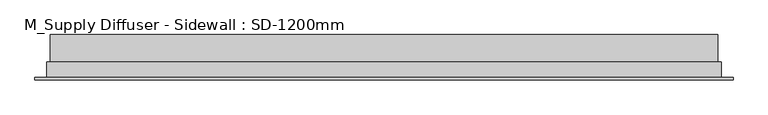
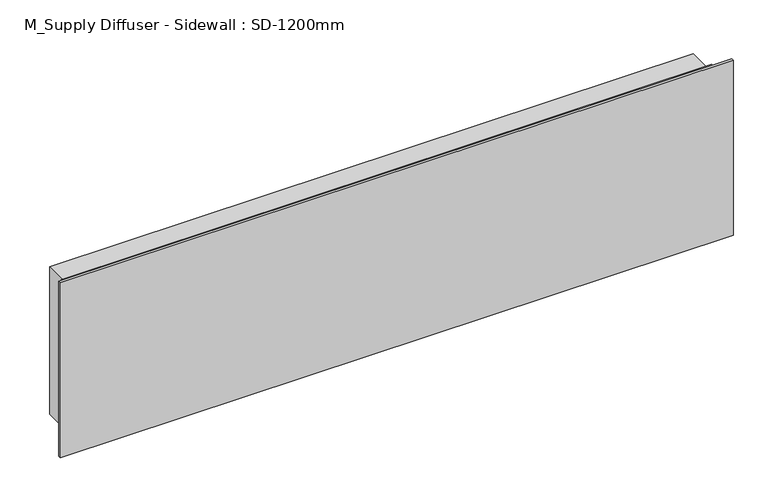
"""IFC4 building model written with IfcOpenShell, lengths in millimetres: air terminal geometry, M_Supply Diffuser - Sidewall : SD-1200mm."""

from ifc_helpers import new_model, si_unit, origin, place, context, project, spatial, faceted_brep, source, transform, mapped, element, save


def m_supply_diffuser_sidewall_sd_1200mm_69bb5c6f(model_context):
    return source(origin(), model_context, "Body", "Brep", [
        faceted_brep([(620.6375, -4.7625, 170.6375), (-620.6375, -4.7625, 170.6375), (-620.6375, -4.7625, -170.6375), (620.6375, -4.7625, -170.6375), (620.6375, 0.0, 170.6375), (620.6375, 0.0, -170.6375), (-620.6375, 0.0, -170.6375), (-620.6375, 0.0, 170.6375), (-600.0, 0.0, 150.0), (-600.0, 0.0, -150.0), (600.0, 0.0, -150.0), (600.0, 0.0, 150.0), (-600.0, 27.384375, 150.0), (600.0, 27.384375, 150.0), (600.0, 27.384375, -150.0), (-600.0, 27.384375, -150.0), (-593.65, 27.384375, 143.65), (-593.65, 27.384375, -143.65), (593.65, 27.384375, -143.65), (593.65, 27.384375, 143.65), (-593.65, 76.2, 143.65), (593.65, 76.2, 143.65), (593.65, 76.2, -143.65), (-593.65, 76.2, -143.65)], [[[0, 1, 2, 3]], [[4, 5, 6, 7], [8, 9, 10, 11]], [[1, 0, 4, 7]], [[2, 1, 7, 6]], [[3, 2, 6, 5]], [[0, 3, 5, 4]], [[12, 13, 14, 15], [16, 17, 18, 19]], [[12, 15, 9, 8]], [[15, 14, 10, 9]], [[14, 13, 11, 10]], [[13, 12, 8, 11]], [[20, 21, 22, 23]], [[20, 23, 17, 16]], [[23, 22, 18, 17]], [[22, 21, 19, 18]], [[21, 20, 16, 19]]]),
    ])


if __name__ == "__main__":
    model = new_model("IFC4")
    model_context = context("Model", 3, world=origin())
    ifc_project = project(units=[si_unit("LENGTHUNIT", "METRE", prefix="MILLI")], contexts=[model_context])
    site = spatial("IfcSite", under=ifc_project)
    building = spatial("IfcBuilding", under=site)
    placement = place(None, origin())
    m_supply_diffuser_sidewall_sd_1200mm_shape = m_supply_diffuser_sidewall_sd_1200mm_69bb5c6f(model_context)
    element("IfcAirTerminal", 1, ObjectType="M_Supply Diffuser - Sidewall : SD-1200mm", at=placement, inside=building, context=model_context, shape_type="MappedRepresentation", body=[
        mapped(m_supply_diffuser_sidewall_sd_1200mm_shape, transform((0.0, 0.0, 0.0), x_axis=(1.0, 0.0, 0.0), y_axis=(0.0, 1.0, 0.0), z_axis=(0.0, 0.0, 1.0))),
    ])
    save(model, "model.ifc")
